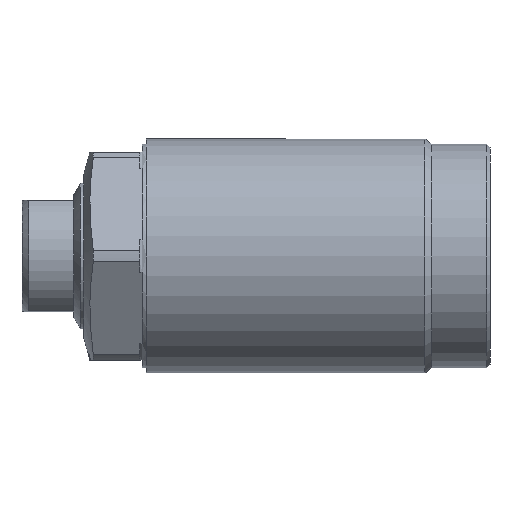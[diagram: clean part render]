
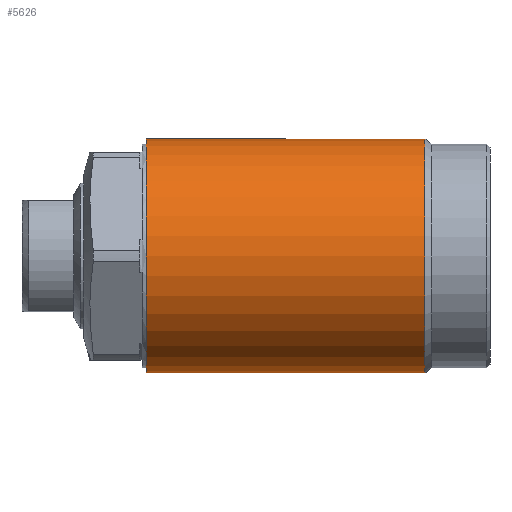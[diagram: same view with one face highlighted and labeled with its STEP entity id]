
A CAD part, left-side view. The second image highlights one B-rep face of the part: STEP entity #5626.
In plain terms, the highlighted cylindrical face has radius 18 mm (diameter 36 mm), a partial arc.
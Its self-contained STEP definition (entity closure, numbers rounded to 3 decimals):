
#474 = CARTESIAN_POINT ( 'NONE',  ( 0., -17.399, 18. ) ) ;
#618 = LINE ( 'NONE', #1225, #5848 ) ;
#648 = EDGE_CURVE ( 'NONE', #5766, #3378, #9788, .T. ) ;
#1223 = DIRECTION ( 'NONE',  ( 0., -1., 0. ) ) ;
#1225 = CARTESIAN_POINT ( 'NONE',  ( 0., -54.764, 18. ) ) ;
#1828 = CARTESIAN_POINT ( 'NONE',  ( 0., -54.764, 0. ) ) ;
#1829 = AXIS2_PLACEMENT_3D ( 'NONE', #7108, #1223, #8098 ) ;
#1910 = DIRECTION ( 'NONE',  ( 0., -1., 0. ) ) ;
#2474 = ORIENTED_EDGE ( 'NONE', *, *, #648, .T. ) ;
#2605 = VECTOR ( 'NONE', #9267, 1000. ) ;
#3378 = VERTEX_POINT ( 'NONE', #12703 ) ;
#3587 = CIRCLE ( 'NONE', #10156, 18. ) ;
#3659 = VERTEX_POINT ( 'NONE', #7033 ) ;
#3749 = ORIENTED_EDGE ( 'NONE', *, *, #6974, .T. ) ;
#4280 = ORIENTED_EDGE ( 'NONE', *, *, #6162, .F. ) ;
#4515 = FACE_OUTER_BOUND ( 'NONE', #10325, .T. ) ;
#5396 = AXIS2_PLACEMENT_3D ( 'NONE', #1828, #12608, #7718 ) ;
#5626 = ADVANCED_FACE ( 'NONE', ( #4515 ), #11683, .T. ) ;
#5766 = VERTEX_POINT ( 'NONE', #9032 ) ;
#5848 = VECTOR ( 'NONE', #6137, 1000. ) ;
#6137 = DIRECTION ( 'NONE',  ( 0., -1., 0. ) ) ;
#6162 = EDGE_CURVE ( 'NONE', #11993, #3378, #8920, .T. ) ;
#6974 = EDGE_CURVE ( 'NONE', #3659, #5766, #3587, .T. ) ;
#7033 = CARTESIAN_POINT ( 'NONE',  ( 0., 25.501, 18. ) ) ;
#7108 = CARTESIAN_POINT ( 'NONE',  ( 0., -17.399, 0. ) ) ;
#7297 = CARTESIAN_POINT ( 'NONE',  ( 0., -54.764, -18. ) ) ;
#7718 = DIRECTION ( 'NONE',  ( 0., 0., -1. ) ) ;
#7790 = CARTESIAN_POINT ( 'NONE',  ( 0., 25.501, 0. ) ) ;
#8098 = DIRECTION ( 'NONE',  ( 0., 0., -1. ) ) ;
#8777 = DIRECTION ( 'NONE',  ( 0., 0., -1. ) ) ;
#8813 = EDGE_CURVE ( 'NONE', #3659, #11993, #618, .T. ) ;
#8920 = CIRCLE ( 'NONE', #1829, 18. ) ;
#9032 = CARTESIAN_POINT ( 'NONE',  ( 0., 25.501, -18. ) ) ;
#9267 = DIRECTION ( 'NONE',  ( 0., -1., 0. ) ) ;
#9788 = LINE ( 'NONE', #7297, #2605 ) ;
#10156 = AXIS2_PLACEMENT_3D ( 'NONE', #7790, #1910, #8777 ) ;
#10325 = EDGE_LOOP ( 'NONE', ( #12059, #3749, #2474, #4280 ) ) ;
#11683 = CYLINDRICAL_SURFACE ( 'NONE', #5396, 18. ) ;
#11993 = VERTEX_POINT ( 'NONE', #474 ) ;
#12059 = ORIENTED_EDGE ( 'NONE', *, *, #8813, .F. ) ;
#12608 = DIRECTION ( 'NONE',  ( 0., -1., 0. ) ) ;
#12703 = CARTESIAN_POINT ( 'NONE',  ( 0., -17.399, -18. ) ) ;
